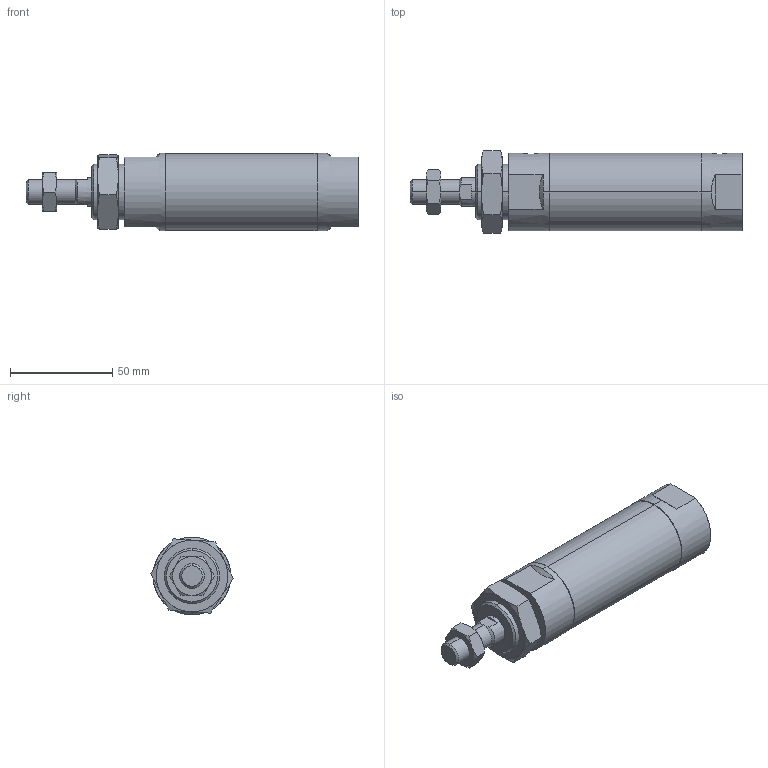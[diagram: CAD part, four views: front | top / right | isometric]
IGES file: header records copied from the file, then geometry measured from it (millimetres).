
Start section: SolidWorks IGES file using analytic representation for surfaces
Global section: file name: C:\Users\Toshiba\Desktop\JGND2-32-25-N.IGS; native system: SolidWorks 2014; preprocessor: SolidWorks 2014; author: Toshiba; date: 160804.104723; units: millimetre
Bounding box: 162 x 40.33 x 38 mm (x, y, z)
Surface area: 23669.1 mm2 (no closed solid volume)
Topology: 0 solids, 0 shells, 89 faces, 1572 edges, 1568 vertices
Faces by surface type: bspline 56, revolution 33
